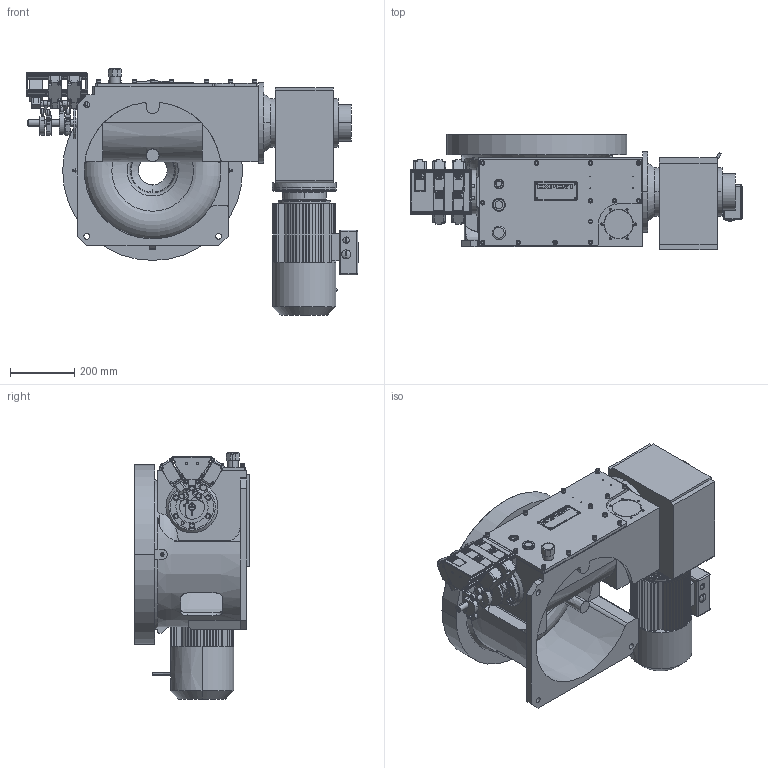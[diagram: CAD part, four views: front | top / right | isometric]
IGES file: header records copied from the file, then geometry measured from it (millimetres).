
Start section:  PTC IGES file: a5537.igs
Global section: file name: a5537.igs; native system: Pro/ENGINEER by Parametric Technology Corporation; preprocessor: 2001040; author: Mueller; organization: Unknown; date: 040917.135751; units: millimetre
Bounding box: 1033.1 x 360 x 766 mm (x, y, z)
Surface area: 3465246.1 mm2 (no closed solid volume)
Topology: 0 solids, 0 shells, 2298 faces, 22460 edges, 22385 vertices
Faces by surface type: bspline 1350, revolution 948
